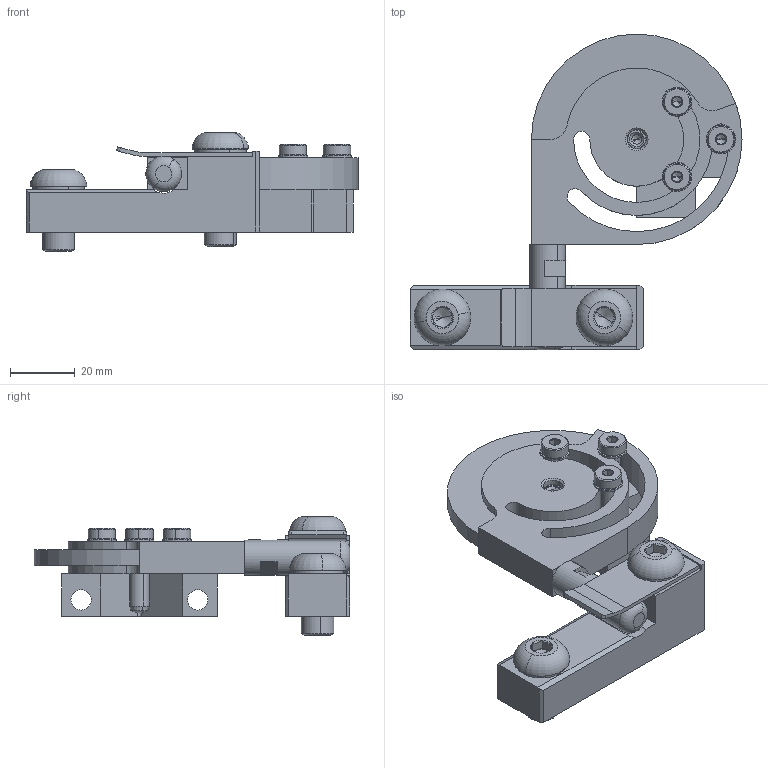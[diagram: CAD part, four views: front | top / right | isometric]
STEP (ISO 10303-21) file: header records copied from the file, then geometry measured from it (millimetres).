
FILE_DESCRIPTION (( 'STEP AP214' ), '1' );
FILE_NAME ('AL50-D.STEP', '2020-01-21T08:45:45', ( '' ), ( '' ), 'SwSTEP 2.0', 'SolidWorks 2019', '' );
FILE_SCHEMA (( 'AUTOMOTIVE_DESIGN' ));
Length unit declared in the file: millimetre
Products named in the file (13): rondella_schnorr_ m5_1_279.STEP; supporto_06233.STEP; vite_tcei_tr_m5x16_din7984_1_066.STEP; Tassello_leva_dx_09222_dx; rondella_schnorr_m10_1_260.STEP; spina_cilindrica_6x20_m4_din7979_1_161.STEP; AL50-D; perno_aggancio_leva_cpr50_63_06116.STEP; vite_tcbei_m10x20_iso7380_1_110.STEP; Disco_posizionatore_09219.STEP; AL63-D.STEP; vite_tcbei_m10x30_iso7380_1_111.STEP; bandella_reazione_06235.STEP
Assembly tree (17 placements, depth 3):
  AL50-D
    AL63-D.STEP
      Disco_posizionatore_09219.STEP
      perno_aggancio_leva_cpr50_63_06116.STEP
      supporto_06233.STEP
      bandella_reazione_06235.STEP
      rondella_schnorr_m10_1_260.STEP  x2
      vite_tcbei_m10x20_iso7380_1_110.STEP
      vite_tcbei_m10x30_iso7380_1_111.STEP
      spina_cilindrica_6x20_m4_din7979_1_161.STEP
      vite_tcei_tr_m5x16_din7984_1_066.STEP  x3
      rondella_schnorr_ m5_1_279.STEP  x3
    Tassello_leva_dx_09222_dx
Bounding box: 102.5 x 97.5 x 36.7 mm (x, y, z)
Volume: 67072.8 mm3; surface area: 32073.4 mm2
Topology: 16 solids, 16 shells, 350 faces, 819 edges, 490 vertices
Faces by surface type: plane 137, cone 98, cylinder 97, torus 16, sphere 2
Entity records: 8641 total; most frequent: CARTESIAN_POINT 1706, DIRECTION 1431, ORIENTED_EDGE 1244, EDGE_CURVE 622, AXIS2_PLACEMENT_3D 546, VERTEX_POINT 387, LINE 339, VECTOR 339
